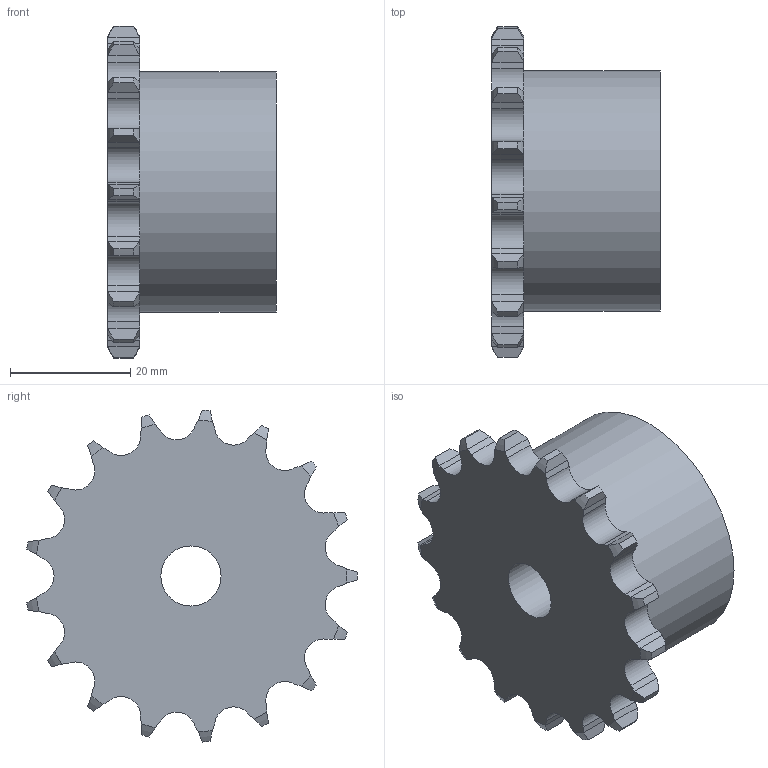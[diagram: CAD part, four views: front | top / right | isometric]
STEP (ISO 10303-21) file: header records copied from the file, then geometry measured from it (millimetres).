
FILE_DESCRIPTION( ( 'STEP AP203' ), '1' );
FILE_NAME( 'C:/Users/Stangenbergd/Documents/CAD_Step/1/10188117.stp', '2020-07-12T10:18:13', ( 'License CC BY-ND 4.0' ), ( 'CADENAS' ), ' ', 'PARTsolutions', ' ' );
FILE_SCHEMA( ( 'CONFIG_CONTROL_DESIGN' ) );
Length unit declared in the file: millimetre
Products named in the file (1): _10188117
Bounding box: 28 x 54.94 x 55.17 mm (x, y, z)
Volume: 36328.8 mm3; surface area: 8612.1 mm2
Topology: 1 solids, 1 shells, 141 faces, 346 edges, 208 vertices
Faces by surface type: plane 71, cylinder 36, torus 34
Full cylindrical faces by diameter (mm): 10 x1, 40 x1
Entity records: 4188 total; most frequent: CARTESIAN_POINT 898, ORIENTED_EDGE 688, DIRECTION 666, EDGE_CURVE 344, AXIS2_PLACEMENT_3D 248, VERTEX_POINT 208, LINE 170, VECTOR 170
